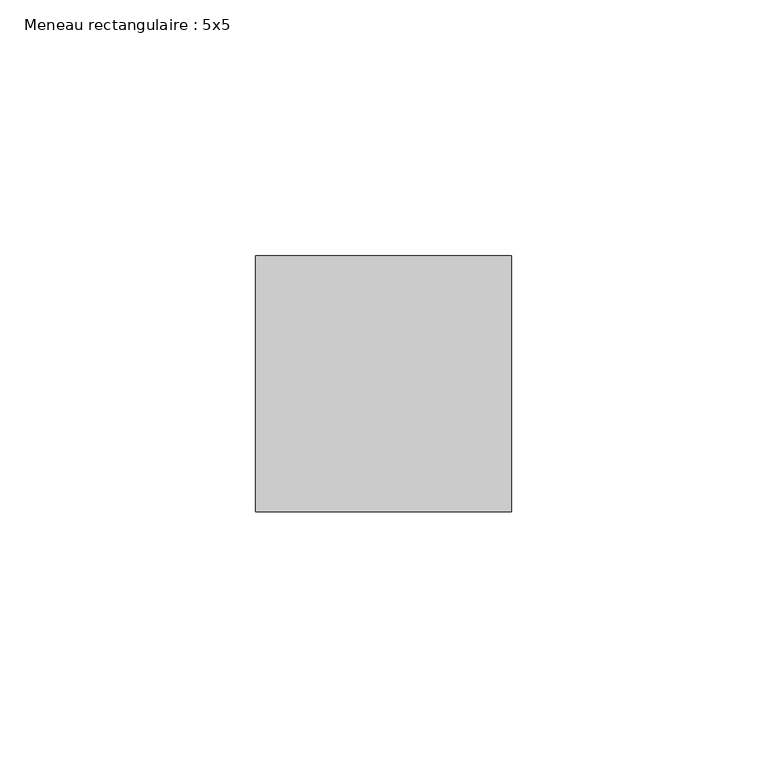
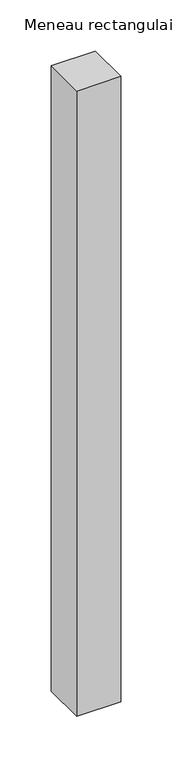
"""IFC4 building model written with IfcOpenShell, lengths in millimetres: member geometry, Meneau rectangulaire : 5x5."""

from ifc_helpers import new_model, si_unit, frame, origin, place, context, project, spatial, polyline, outline, extrude, source, transform, mapped, element, save


def meneau_rectangulaire_5x5_56bb9f31(model_context):
    return source(origin(), model_context, "Body", "SweptSolid", [
        extrude(outline(polyline([(0.0, 25.0), (0.0, -25.0), (-50.0, -25.0), (-50.0, 25.0), (0.0, 25.0)])), frame((0.0, 0.0, -748.2488287), z_axis=(0.0, 0.0, 1.0), x_axis=(1.0, 0.0, 0.0)), (0.0, 0.0, 1.0), 748.2488287),
    ])


if __name__ == "__main__":
    model = new_model("IFC4")
    model_context = context("Model", 3, world=origin())
    ifc_project = project(units=[si_unit("LENGTHUNIT", "METRE", prefix="MILLI")], contexts=[model_context])
    site = spatial("IfcSite", under=ifc_project)
    building = spatial("IfcBuilding", under=site)
    placement = place(None, origin())
    meneau_rectangulaire_5x5_shape = meneau_rectangulaire_5x5_56bb9f31(model_context)
    element("IfcMember", 1, ObjectType="Meneau rectangulaire : 5x5", at=placement, inside=building, context=model_context, shape_type="MappedRepresentation", body=[
        mapped(meneau_rectangulaire_5x5_shape, transform((0.0, 0.0, 0.0), x_axis=(1.0, 0.0, 0.0), y_axis=(0.0, 1.0, 0.0), z_axis=(0.0, 0.0, 1.0))),
    ])
    save(model, "model.ifc")
